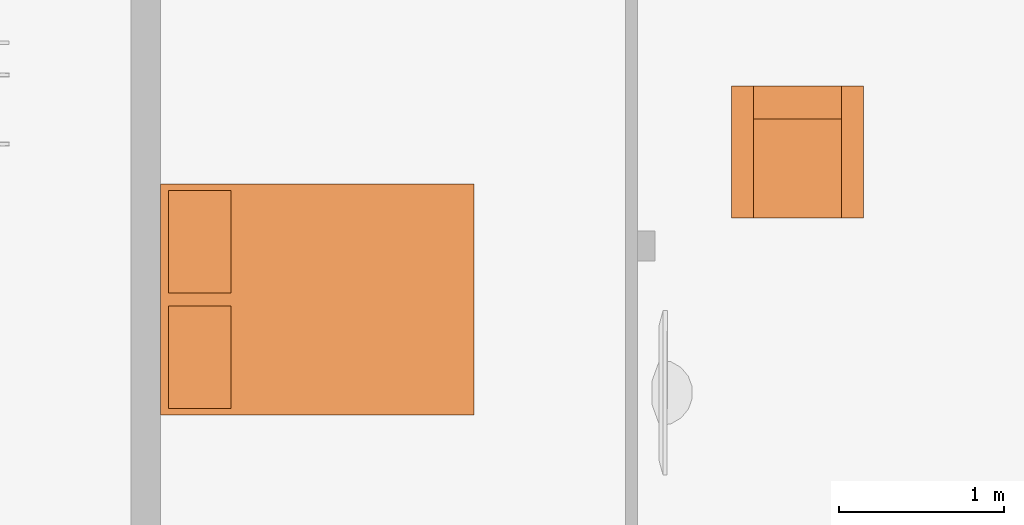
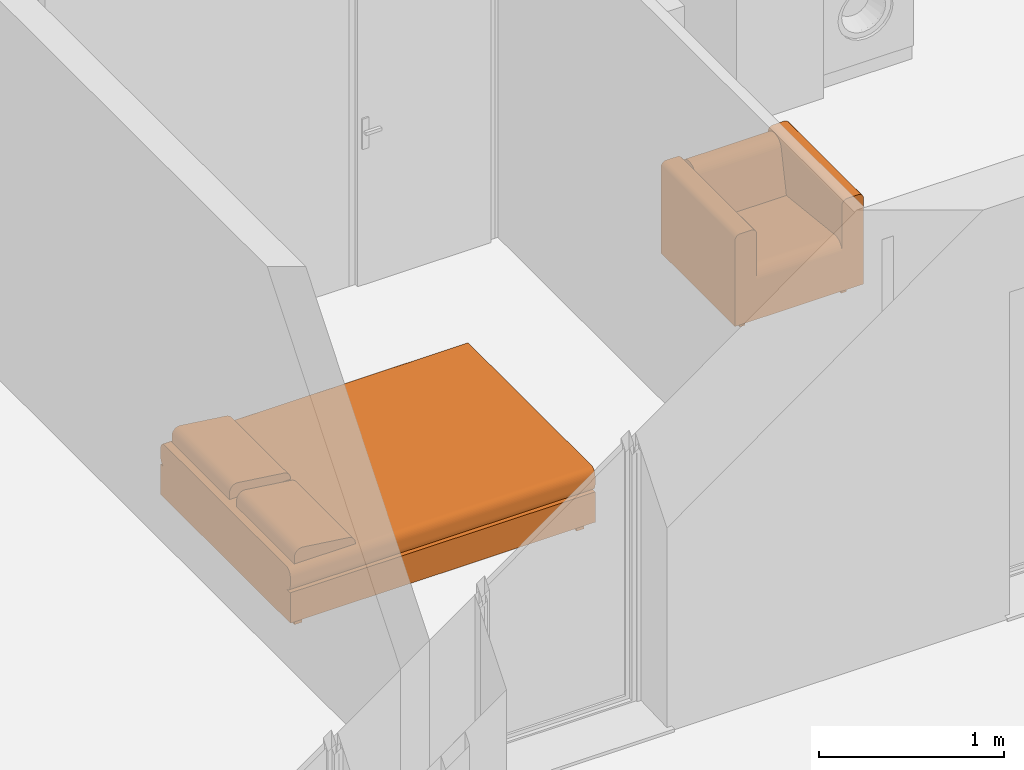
# One storey, part 138 of 164: 2 proxies.
"""IFC2X3 building model written with IfcOpenShell, lengths in millimetres."""

from ifc_helpers import new_model, entity, si_unit, converted_unit, derived_unit, money_unit, direction, frame, origin_with_axes, place, context, subcontext, project, spatial, open_shell, faceted_brep, surface_model, source, transform, mapped, type_object, element, save


model = new_model("IFC2X3")

# Units and contexts
model_context = context("Model", 3, precision=0.01, world=origin_with_axes(), true_north=direction((0.0, 1.0)))
body_context = subcontext(model_context, "Body", "Model", "MODEL_VIEW")
ifc_project = project(units=[si_unit("LENGTHUNIT", "METRE", prefix="MILLI"), si_unit("AREAUNIT", "SQUARE_METRE"), si_unit("VOLUMEUNIT", "CUBIC_METRE"), converted_unit("PLANEANGLEUNIT", "DEGREE", entity("IfcPlaneAngleMeasure", 0.0174532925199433), si_unit("PLANEANGLEUNIT", "RADIAN"), dimensions=[0, 0, 0, 0, 0, 0, 0]), money_unit("USD"), converted_unit("TIMEUNIT", "Year", entity("IfcTimeMeasure", 31557600.0), si_unit("TIMEUNIT", "SECOND"), dimensions=[0, 0, 1, 0, 0, 0, 0]), si_unit("MASSUNIT", "GRAM", prefix="KILO"), si_unit("THERMODYNAMICTEMPERATUREUNIT", "DEGREE_CELSIUS"), si_unit("LUMINOUSINTENSITYUNIT", "LUMEN"), si_unit("ENERGYUNIT", "JOULE", prefix="MEGA"), derived_unit("THERMALCONDUCTANCEUNIT", [(si_unit("POWERUNIT", "WATT"), 1), (si_unit("LENGTHUNIT", "METRE"), -1), (si_unit("THERMODYNAMICTEMPERATUREUNIT", "KELVIN"), -1)]), derived_unit("SPECIFICHEATCAPACITYUNIT", [(si_unit("ENERGYUNIT", "JOULE"), 1), (si_unit("MASSUNIT", "GRAM", prefix="KILO"), -1), (si_unit("THERMODYNAMICTEMPERATUREUNIT", "KELVIN"), -1)]), derived_unit("MASSDENSITYUNIT", [(si_unit("MASSUNIT", "GRAM", prefix="KILO"), 1), (si_unit("VOLUMEUNIT", "CUBIC_METRE"), -1)])], contexts=[model_context])

# Site, building, storey
site_placement = place(None, origin_with_axes())
site = spatial("IfcSite", under=ifc_project, at=site_placement, Name="Site", CompositionType="ELEMENT")
building_placement = place(site_placement, origin_with_axes())
building = spatial("IfcBuilding", under=site, at=building_placement, Name="Bâtiment", CompositionType="ELEMENT")
storey_placement = place(building_placement, frame((0.0, 0.0, 5750.0), z_axis=(0.0, 0.0, 1.0), x_axis=(1.0, 0.0, 0.0)))
storey = spatial("IfcBuildingStorey", under=building, at=storey_placement, Name="Etage1", CompositionType="ELEMENT", Elevation=5750.0)

# Proxies
building_element_proxy_type = type_object("IfcBuildingElementProxyType", PredefinedType="NOTDEFINED")
shared_shape_1 = source(origin_with_axes(), body_context, "Body", "Brep", [
    faceted_brep([(-333.3000000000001, 66.7, 0.0), (-333.3000000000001, 100.0, 0.0), (-300.0000000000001, 100.0, 0.0), (-300.0000000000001, 66.7, 0.0), (-333.3000000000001, 66.7, 66.69999999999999), (-333.3000000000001, 100.0, 66.69999999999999), (-300.0000000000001, 100.0, 66.69999999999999), (-300.0000000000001, 66.7, 66.69999999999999)], [[[0, 1, 2, 3]], [[0, 4, 5, 1]], [[1, 5, 6, 2]], [[2, 6, 7, 3]], [[3, 7, 4, 0]], [[7, 6, 5, 4]]]),
    faceted_brep([(-333.3000000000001, 700.0000000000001, 0.0), (-333.3000000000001, 733.3000000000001, 0.0), (-300.0000000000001, 733.3000000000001, 0.0), (-300.0000000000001, 700.0000000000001, 0.0), (-333.3000000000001, 700.0000000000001, 66.69999999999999), (-333.3000000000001, 733.3000000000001, 66.69999999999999), (-300.0000000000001, 733.3000000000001, 66.69999999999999), (-300.0000000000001, 700.0000000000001, 66.69999999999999)], [[[0, 1, 2, 3]], [[0, 4, 5, 1]], [[1, 5, 6, 2]], [[2, 6, 7, 3]], [[3, 7, 4, 0]], [[7, 6, 5, 4]]]),
    faceted_brep([(300.0000000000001, 66.7, 0.0), (300.0000000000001, 100.0, 0.0), (333.3000000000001, 100.0, 0.0), (333.3000000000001, 66.7, 0.0), (300.0000000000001, 66.7, 66.69999999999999), (300.0000000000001, 100.0, 66.69999999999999), (333.3000000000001, 100.0, 66.69999999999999), (333.3000000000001, 66.7, 66.69999999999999)], [[[0, 1, 2, 3]], [[0, 4, 5, 1]], [[1, 5, 6, 2]], [[2, 6, 7, 3]], [[3, 7, 4, 0]], [[7, 6, 5, 4]]]),
    faceted_brep([(300.0000000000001, 700.0000000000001, 0.0), (300.0000000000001, 733.3000000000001, 0.0), (333.3000000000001, 733.3000000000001, 0.0), (333.3000000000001, 700.0000000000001, 0.0), (300.0000000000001, 700.0000000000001, 66.69999999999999), (300.0000000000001, 733.3000000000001, 66.69999999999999), (333.3000000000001, 733.3000000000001, 66.69999999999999), (333.3000000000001, 700.0000000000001, 66.69999999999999)], [[[0, 1, 2, 3]], [[0, 4, 5, 1]], [[1, 5, 6, 2]], [[2, 6, 7, 3]], [[3, 7, 4, 0]], [[7, 6, 5, 4]]]),
    faceted_brep([(-266.7, 800.0, 66.69999999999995), (-266.7, 0.0, 66.69999999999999), (-400.033, 0.0, 66.69999999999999), (-400.033, 800.0, 66.69999999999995), (-266.7, 800.0, 67.19999999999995), (-266.7, 0.0, 67.19999999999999), (-266.7, 0.0, 633.37), (-266.7, 0.0, 636.2859999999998), (-267.713, 0.0, 642.029), (-269.707, 0.0, 647.5099999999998), (-272.623, 0.0, 652.5599999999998), (-276.372, 0.0, 657.0279999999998), (-280.84, 0.0, 660.7769999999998), (-285.89, 0.0, 663.6929999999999), (-291.371, 0.0, 665.6869999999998), (-297.114, 0.0, 666.6999999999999), (-300.03, 0.0, 666.6999999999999), (-366.703, 0.0, 666.6999999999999), (-369.619, 0.0, 666.6999999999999), (-375.363, 0.0, 665.6869999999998), (-380.843, 0.0, 663.6929999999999), (-385.894, 0.0, 660.7769999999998), (-390.361, 0.0, 657.0279999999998), (-394.11, 0.0, 652.5599999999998), (-397.026, 0.0, 647.5099999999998), (-399.021, 0.0, 642.029), (-400.033, 0.0, 636.2859999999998), (-400.033, 0.0, 633.37), (-400.033, 800.0, 633.37), (-400.033, 800.0, 636.2859999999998), (-399.021, 800.0, 642.029), (-397.026, 800.0, 647.5099999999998), (-394.11, 800.0, 652.5599999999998), (-390.361, 800.0, 657.0279999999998), (-385.894, 800.0, 660.7769999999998), (-380.843, 800.0, 663.6929999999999), (-375.363, 800.0, 665.6869999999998), (-369.619, 800.0, 666.6999999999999), (-366.703, 800.0, 666.6999999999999), (-300.03, 800.0, 666.6999999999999), (-297.114, 800.0, 666.6999999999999), (-291.371, 800.0, 665.6869999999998), (-285.89, 800.0, 663.6929999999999), (-280.84, 800.0, 660.7769999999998), (-276.372, 800.0, 657.0279999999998), (-272.623, 800.0, 652.5599999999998), (-269.707, 800.0, 647.5099999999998), (-267.713, 800.0, 642.029), (-266.7, 800.0, 636.2859999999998), (-266.7, 800.0, 633.37)], [[[0, 1, 2, 3]], [[4, 5, 1, 0]], [[1, 5, 6, 7, 8, 9, 10, 11, 12, 13, 14, 15, 16, 17, 18, 19, 20, 21, 22, 23, 24, 25, 26, 27, 2]], [[3, 2, 27, 28]], [[0, 3, 28, 29, 30, 31, 32, 33, 34, 35, 36, 37, 38, 39, 40, 41, 42, 43, 44, 45, 46, 47, 48, 49, 4]], [[49, 6, 5, 4]], [[48, 7, 6, 49]], [[47, 8, 7, 48]], [[46, 9, 8, 47]], [[45, 10, 9, 46]], [[44, 11, 10, 45]], [[43, 12, 11, 44]], [[42, 13, 12, 43]], [[41, 14, 13, 42]], [[40, 15, 14, 41]], [[39, 16, 15, 40]], [[38, 17, 16, 39]], [[37, 18, 17, 38]], [[36, 19, 18, 37]], [[35, 20, 19, 36]], [[34, 21, 20, 35]], [[33, 22, 21, 34]], [[32, 23, 22, 33]], [[31, 24, 23, 32]], [[30, 25, 24, 31]], [[29, 26, 25, 30]], [[28, 27, 26, 29]]]),
    faceted_brep([(400.0, 800.0, 66.69999999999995), (400.0, 0.0, 66.69999999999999), (266.667, 0.0, 66.69999999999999), (266.667, 800.0, 66.69999999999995), (400.0, 800.0, 67.19999999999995), (400.0, 0.0, 67.19999999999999), (400.0, 0.0, 633.37), (400.0, 0.0, 636.2859999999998), (398.987, 0.0, 642.029), (396.9930000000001, 0.0, 647.5099999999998), (394.077, 0.0, 652.5599999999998), (390.328, 0.0, 657.0279999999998), (385.86, 0.0, 660.7769999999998), (380.8100000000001, 0.0, 663.6929999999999), (375.329, 0.0, 665.6869999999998), (369.586, 0.0, 666.6999999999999), (366.67, 0.0, 666.6999999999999), (299.997, 0.0, 666.6999999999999), (297.081, 0.0, 666.6999999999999), (291.337, 0.0, 665.6869999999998), (285.857, 0.0, 663.6929999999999), (280.806, 0.0, 660.7769999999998), (276.339, 0.0, 657.0279999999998), (272.59, 0.0, 652.5599999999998), (269.674, 0.0, 647.5099999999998), (267.679, 0.0, 642.029), (266.667, 0.0, 636.2859999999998), (266.667, 0.0, 633.37), (266.667, 800.0, 633.37), (266.667, 800.0, 636.2859999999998), (267.679, 800.0, 642.029), (269.674, 800.0, 647.5099999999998), (272.59, 800.0, 652.5599999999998), (276.339, 800.0, 657.0279999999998), (280.806, 800.0, 660.7769999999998), (285.857, 800.0, 663.6929999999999), (291.337, 800.0, 665.6869999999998), (297.081, 800.0, 666.6999999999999), (299.997, 800.0, 666.6999999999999), (366.67, 800.0, 666.6999999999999), (369.586, 800.0, 666.6999999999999), (375.329, 800.0, 665.6869999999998), (380.8100000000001, 800.0, 663.6929999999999), (385.86, 800.0, 660.7769999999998), (390.328, 800.0, 657.0279999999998), (394.077, 800.0, 652.5599999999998), (396.9930000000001, 800.0, 647.5099999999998), (398.987, 800.0, 642.029), (400.0, 800.0, 636.2859999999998), (400.0, 800.0, 633.37)], [[[0, 1, 2, 3]], [[4, 5, 1, 0]], [[1, 5, 6, 7, 8, 9, 10, 11, 12, 13, 14, 15, 16, 17, 18, 19, 20, 21, 22, 23, 24, 25, 26, 27, 2]], [[3, 2, 27, 28]], [[0, 3, 28, 29, 30, 31, 32, 33, 34, 35, 36, 37, 38, 39, 40, 41, 42, 43, 44, 45, 46, 47, 48, 49, 4]], [[49, 6, 5, 4]], [[48, 7, 6, 49]], [[47, 8, 7, 48]], [[46, 9, 8, 47]], [[45, 10, 9, 46]], [[44, 11, 10, 45]], [[43, 12, 11, 44]], [[42, 13, 12, 43]], [[41, 14, 13, 42]], [[40, 15, 14, 41]], [[39, 16, 15, 40]], [[38, 17, 16, 39]], [[37, 18, 17, 38]], [[36, 19, 18, 37]], [[35, 20, 19, 36]], [[34, 21, 20, 35]], [[33, 22, 21, 34]], [[32, 23, 22, 33]], [[31, 24, 23, 32]], [[30, 25, 24, 31]], [[29, 26, 25, 30]], [[28, 27, 26, 29]]]),
    faceted_brep([(266.6667, 0.0, 66.69999999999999), (-266.6333, 0.0, 66.69999999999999), (-266.6333, 800.0, 66.69999999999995), (266.6667, 800.0, 66.69999999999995), (266.6667, 0.0, 67.2), (-266.6333, 0.0, 67.2), (-266.6333, 0.0, 325.5449999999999), (-266.6333, -0.2359999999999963, 327.1109999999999), (-266.6333, 1.052000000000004, 338.7049999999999), (-266.6333, 4.334000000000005, 349.8989999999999), (-266.6333, 9.510000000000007, 360.3539999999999), (-266.6333, 16.42300000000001, 369.7509999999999), (-266.6333, 24.86200000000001, 377.8049999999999), (-266.6333, 34.57200000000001, 384.271), (-266.6333, 45.25800000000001, 388.9519999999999), (-266.6333, 56.59300000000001, 391.707), (-266.6333, 68.23500000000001, 392.4519999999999), (-266.6333, 74.03200000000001, 391.808), (-266.6333, 600.0000000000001, 333.3669999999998), (-266.6333, 600.0980000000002, 333.8569999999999), (-266.6333, 655.9480000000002, 613.1049999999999), (-266.6333, 656.6790000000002, 617.351), (-266.6333, 660.6690000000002, 628.314), (-266.6333, 666.5020000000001, 638.4159999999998), (-266.6333, 674.0000000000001, 647.3529999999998), (-266.6333, 682.937, 654.8509999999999), (-266.6333, 693.0390000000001, 660.6839999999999), (-266.6333, 704.0020000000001, 664.6739999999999), (-266.6333, 715.4900000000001, 666.6999999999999), (-266.6333, 721.3230000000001, 666.6999999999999), (-266.6333, 733.33, 666.6999999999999), (-266.6333, 739.163, 666.6999999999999), (-266.6333, 750.6510000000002, 664.6739999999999), (-266.6333, 761.614, 660.6839999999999), (-266.6333, 771.716, 654.8509999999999), (-266.6333, 780.653, 647.3529999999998), (-266.6333, 788.1510000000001, 638.4159999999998), (-266.6333, 793.984, 628.314), (-266.6333, 797.974, 617.351), (-266.6333, 800.0, 605.8629999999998), (-266.6333, 800.0, 600.0299999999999), (266.6667, 800.0, 600.0299999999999), (266.6667, 800.0, 605.8629999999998), (266.6667, 797.974, 617.351), (266.6667, 793.984, 628.314), (266.6667, 788.1510000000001, 638.4159999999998), (266.6667, 780.653, 647.3529999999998), (266.6667, 771.716, 654.8509999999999), (266.6667, 761.614, 660.6839999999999), (266.6667, 750.6510000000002, 664.6739999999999), (266.6667, 739.163, 666.6999999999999), (266.6667, 733.33, 666.6999999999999), (266.6667, 721.3230000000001, 666.6999999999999), (266.6667, 715.4900000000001, 666.6999999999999), (266.6667, 704.0020000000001, 664.6739999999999), (266.6667, 693.0390000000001, 660.6839999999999), (266.6667, 682.937, 654.8509999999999), (266.6667, 674.0000000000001, 647.3529999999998), (266.6667, 666.5020000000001, 638.4159999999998), (266.6667, 660.6690000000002, 628.314), (266.6667, 656.6790000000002, 617.351), (266.6667, 655.9480000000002, 613.1049999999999), (266.6667, 600.0980000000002, 333.8569999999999), (266.6667, 600.0000000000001, 333.3669999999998), (266.6667, 74.03200000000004, 391.808), (266.6667, 68.23500000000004, 392.4519999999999), (266.6667, 56.59300000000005, 391.707), (266.6667, 45.25800000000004, 388.9519999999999), (266.6667, 34.57200000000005, 384.271), (266.6667, 24.86200000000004, 377.8049999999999), (266.6667, 16.42300000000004, 369.7509999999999), (266.6667, 9.510000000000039, 360.3539999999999), (266.6667, 4.334000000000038, 349.8989999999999), (266.6667, 1.052000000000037, 338.7049999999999), (266.6667, -0.2359999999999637, 327.1109999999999), (266.6667, 0.0, 325.5449999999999)], [[[0, 1, 2, 3]], [[4, 5, 1, 0]], [[1, 5, 6, 7, 8, 9, 10, 11, 12, 13, 14, 15, 16, 17, 18, 19, 20, 21, 22, 23, 24, 25, 26, 27, 28, 29, 30, 31, 32, 33, 34, 35, 36, 37, 38, 39, 40, 2]], [[3, 2, 40, 41]], [[0, 3, 41, 42, 43, 44, 45, 46, 47, 48, 49, 50, 51, 52, 53, 54, 55, 56, 57, 58, 59, 60, 61, 62, 63, 64, 65, 66, 67, 68, 69, 70, 71, 72, 73, 74, 75, 4]], [[75, 6, 5, 4]], [[74, 7, 6, 75]], [[73, 8, 7, 74]], [[72, 9, 8, 73]], [[71, 10, 9, 72]], [[70, 11, 10, 71]], [[69, 12, 11, 70]], [[68, 13, 12, 69]], [[67, 14, 13, 68]], [[66, 15, 14, 67]], [[65, 16, 15, 66]], [[64, 17, 16, 65]], [[63, 18, 17, 64]], [[62, 19, 18, 63]], [[61, 20, 19, 62]], [[60, 21, 20, 61]], [[59, 22, 21, 60]], [[58, 23, 22, 59]], [[57, 24, 23, 58]], [[56, 25, 24, 57]], [[55, 26, 25, 56]], [[54, 27, 26, 55]], [[53, 28, 27, 54]], [[52, 29, 28, 53]], [[51, 30, 29, 52]], [[50, 31, 30, 51]], [[49, 32, 31, 50]], [[48, 33, 32, 49]], [[47, 34, 33, 48]], [[46, 35, 34, 47]], [[45, 36, 35, 46]], [[44, 37, 36, 45]], [[43, 38, 37, 44]], [[42, 39, 38, 43]], [[41, 40, 39, 42]]]),
])
proxy_1_placement = place(storey_placement, frame((2228173.380267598, -654780.4209797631, 0.0), z_axis=(0.0, 0.0, 1.0), x_axis=(1.0, 0.0, 0.0)))
element("IfcBuildingElementProxy", 1, at=proxy_1_placement, inside=storey, type_object=building_element_proxy_type, Name="Obj.-034", context=body_context, shape_type="MappedRepresentation", body=[
    mapped(shared_shape_1, transform((0.0, 0.0, 0.0))),
])
shared_shape_2 = source(origin_with_axes(), body_context, "Body", "SurfaceModel", [
    faceted_brep([(-622.2222222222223, -95.0, 0.0), (-661.1111111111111, -95.0, 0.0), (-661.1111111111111, -47.5, 0.0), (-622.2222222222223, -47.5, 0.0), (-622.2222222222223, -95.0, 50.0), (-661.1111111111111, -95.0, 50.0), (-661.1111111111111, -47.5, 50.0), (-622.2222222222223, -47.5, 50.0)], [[[0, 1, 2, 3]], [[1, 0, 4, 5]], [[2, 1, 5, 6]], [[3, 2, 6, 7]], [[0, 3, 7, 4]], [[5, 4, 7, 6]]]),
    faceted_brep([(-622.2222222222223, -1852.5, 0.0), (-661.1111111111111, -1852.5, 0.0), (-661.1111111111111, -1805.0, 0.0), (-622.2222222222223, -1805.0, 0.0), (-622.2222222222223, -1852.5, 50.0), (-661.1111111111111, -1852.5, 50.0), (-661.1111111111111, -1805.0, 50.0), (-622.2222222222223, -1805.0, 50.0)], [[[0, 1, 2, 3]], [[1, 0, 4, 5]], [[2, 1, 5, 6]], [[3, 2, 6, 7]], [[0, 3, 7, 4]], [[5, 4, 7, 6]]]),
    faceted_brep([(661.111111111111, -1852.5, 0.0), (622.2222222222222, -1852.5, 0.0), (622.2222222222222, -1805.0, 0.0), (661.111111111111, -1805.0, 0.0), (661.111111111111, -1852.5, 50.0), (622.2222222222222, -1852.5, 50.0), (622.2222222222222, -1805.0, 50.0), (661.111111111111, -1805.0, 50.0)], [[[0, 1, 2, 3]], [[1, 0, 4, 5]], [[2, 1, 5, 6]], [[3, 2, 6, 7]], [[0, 3, 7, 4]], [[5, 4, 7, 6]]]),
    faceted_brep([(661.111111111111, -94.99999999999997, 0.0), (622.2222222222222, -94.99999999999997, 0.0), (622.2222222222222, -47.49999999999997, 0.0), (661.111111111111, -47.49999999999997, 0.0), (661.111111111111, -94.99999999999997, 50.0), (622.2222222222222, -94.99999999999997, 50.0), (622.2222222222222, -47.49999999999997, 50.0), (661.111111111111, -47.49999999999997, 50.0)], [[[0, 1, 2, 3]], [[1, 0, 4, 5]], [[2, 1, 5, 6]], [[3, 2, 6, 7]], [[0, 3, 7, 4]], [[5, 4, 7, 6]]]),
    faceted_brep([(-700.0, 0.0, 50.0), (700.0, 0.0, 50.0), (700.0, -1900.0, 50.00000000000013), (-700.0, -1900.0, 50.00000000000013), (-700.0, 0.0, 250.0), (700.0, 0.0, 250.0), (700.0, -1900.0, 250.0000000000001), (-700.0, -1900.0, 250.0000000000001)], [[[0, 1, 2, 3]], [[0, 4, 5, 1]], [[1, 5, 6, 2]], [[3, 2, 6, 7]], [[4, 0, 3, 7]], [[5, 4, 7, 6]]]),
    surface_model("IfcShellBasedSurfaceModel", [(661.1111111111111, 0.0, 250.0), (667.8640957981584, 0.0, 250.7596123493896), (667.8640957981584, -1900.0, 250.7596123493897), (661.1111111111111, -1900.0, 250.0000000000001), (-661.1111111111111, 0.0, 250.0), (-667.8640957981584, 0.0, 250.7596123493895), (-674.4118944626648, 0.0, 253.0153689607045), (-680.5555555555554, 0.0, 256.698729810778), (-686.1084070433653, 0.0, 261.6977778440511), (-690.9017283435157, 0.0, 267.860619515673), (-694.7898768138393, 0.0, 275.0), (-697.654713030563, 0.0, 282.8989928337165), (-699.4091903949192, 0.0, 291.3175911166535), (-700.0, 0.0, 300.0000000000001), (-700.0000000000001, 0.0, 350.0), (-699.4091903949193, 0.0, 358.6824088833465), (-697.654713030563, 0.0, 367.1010071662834), (-694.7898768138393, 0.0, 375.0), (-690.9017283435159, 0.0, 382.139380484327), (-686.1084070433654, 0.0, 388.3022221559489), (-680.5555555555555, 0.0, 393.301270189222), (-674.4118944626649, 0.0, 396.9846310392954), (-667.8640957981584, 0.0, 399.2403876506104), (-661.1111111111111, 0.0, 400.0), (661.111111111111, 0.0, 400.0000000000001), (667.8640957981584, 0.0, 399.2403876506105), (674.4118944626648, 0.0, 396.9846310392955), (680.5555555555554, 0.0, 393.301270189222), (686.1084070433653, 0.0, 388.3022221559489), (690.9017283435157, 0.0, 382.139380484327), (694.7898768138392, 0.0, 375.0000000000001), (697.654713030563, 0.0, 367.1010071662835), (699.4091903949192, 0.0, 358.6824088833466), (700.0, 0.0, 350.0000000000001), (700.0, 0.0, 300.0000000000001), (699.4091903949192, 0.0, 291.3175911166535), (697.654713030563, 0.0, 282.8989928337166), (694.7898768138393, 0.0, 275.0), (690.9017283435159, 0.0, 267.8606195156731), (686.1084070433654, 0.0, 261.6977778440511), (680.5555555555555, 0.0, 256.698729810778), (674.4118944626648, 0.0, 253.0153689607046), (674.4118944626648, -1900.0, 253.0153689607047), (-661.1111111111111, -1900.0, 250.0000000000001), (680.5555555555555, -1900.0, 256.6987298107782), (686.1084070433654, -1900.0, 261.6977778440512), (690.9017283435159, -1900.0, 267.8606195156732), (694.7898768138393, -1900.0, 275.0000000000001), (697.654713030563, -1900.0, 282.8989928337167), (699.4091903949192, -1900.0, 291.3175911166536), (700.0, -1900.0, 300.0000000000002), (700.0, -1900.0, 350.0000000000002), (699.4091903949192, -1900.0, 358.6824088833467), (697.654713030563, -1900.0, 367.1010071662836), (694.7898768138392, -1900.0, 375.0000000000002), (690.9017283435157, -1900.0, 382.1393804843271), (686.1084070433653, -1900.0, 388.302222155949), (680.5555555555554, -1900.0, 393.3012701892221), (674.4118944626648, -1900.0, 396.9846310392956), (667.8640957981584, -1900.0, 399.2403876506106), (661.111111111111, -1900.0, 400.0000000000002), (-661.1111111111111, -1900.0, 400.0000000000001), (-667.8640957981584, -1900.0, 399.2403876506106), (-674.4118944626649, -1900.0, 396.9846310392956), (-680.5555555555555, -1900.0, 393.3012701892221), (-686.1084070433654, -1900.0, 388.302222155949), (-690.9017283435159, -1900.0, 382.1393804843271), (-694.7898768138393, -1900.0, 375.0000000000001), (-697.654713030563, -1900.0, 367.1010071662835), (-699.4091903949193, -1900.0, 358.6824088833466), (-700.0000000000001, -1900.0, 350.0000000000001), (-700.0, -1900.0, 300.0000000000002), (-699.4091903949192, -1900.0, 291.3175911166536), (-697.654713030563, -1900.0, 282.8989928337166), (-694.7898768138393, -1900.0, 275.0000000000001), (-690.9017283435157, -1900.0, 267.8606195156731), (-686.1084070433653, -1900.0, 261.6977778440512), (-680.5555555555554, -1900.0, 256.6987298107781), (-674.4118944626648, -1900.0, 253.0153689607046), (-667.8640957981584, -1900.0, 250.7596123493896)], [open_shell([[[0, 1, 2, 3]], [[4, 5, 6, 7, 8, 9, 10, 11, 12, 13, 14, 15, 16, 17, 18, 19, 20, 21, 22, 23, 24, 25, 26, 27, 28, 29, 30, 31, 32, 33, 34, 35, 36, 37, 38, 39, 40, 41, 1, 0]], [[1, 41, 42, 2]], [[43, 3, 2, 42, 44, 45, 46, 47, 48, 49, 50, 51, 52, 53, 54, 55, 56, 57, 58, 59, 60, 61, 62, 63, 64, 65, 66, 67, 68, 69, 70, 71, 72, 73, 74, 75, 76, 77, 78, 79]], [[5, 4, 43, 79]], [[6, 5, 79, 78]], [[7, 6, 78, 77]], [[8, 7, 77, 76]], [[9, 8, 76, 75]], [[10, 9, 75, 74]], [[11, 10, 74, 73]], [[12, 11, 73, 72]], [[13, 12, 72, 71]], [[14, 13, 71, 70]], [[15, 14, 70, 69]], [[16, 15, 69, 68]], [[17, 16, 68, 67]], [[18, 17, 67, 66]], [[19, 18, 66, 65]], [[20, 19, 65, 64]], [[21, 20, 64, 63]], [[22, 21, 63, 62]], [[23, 22, 62, 61]], [[24, 23, 61, 60]], [[25, 24, 60, 59]], [[26, 25, 59, 58]], [[27, 26, 58, 57]], [[28, 27, 57, 56]], [[29, 28, 56, 55]], [[30, 29, 55, 54]], [[31, 30, 54, 53]], [[32, 31, 53, 52]], [[33, 32, 52, 51]], [[34, 33, 51, 50]], [[35, 34, 50, 49]], [[36, 35, 49, 48]], [[37, 36, 48, 47]], [[38, 37, 47, 46]], [[39, 38, 46, 45]], [[40, 39, 45, 44]], [[41, 40, 44, 42]]])]),
    faceted_brep([(38.88888888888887, -47.49999999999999, 400.0), (38.88888888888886, -47.49999999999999, 443.4), (661.1111111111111, -47.50000000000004, 443.4000000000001), (661.1111111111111, -47.50000000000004, 400.0000000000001), (38.88888888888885, -427.5, 400.0), (38.88888888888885, -427.6960812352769, 408.695442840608), (38.88888888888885, -426.4675711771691, 417.2966661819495), (38.88888888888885, -423.8511300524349, 425.5469991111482), (38.88888888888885, -419.9248356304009, 433.2002417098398), (38.88888888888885, -414.8058532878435, 440.0280119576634), (38.88888888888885, -408.6469396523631, 445.826560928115), (38.88888888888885, -401.6318841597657, 450.4228529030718), (38.88888888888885, -393.9700245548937, 453.6797289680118), (38.88888888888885, -385.89, 455.5), (38.88888888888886, -100.89, 493.0000000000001), (38.88888888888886, -92.85488048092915, 493.3370808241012), (38.88888888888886, -84.88093291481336, 492.2422169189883), (38.88888888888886, -77.19681007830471, 489.7468034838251), (38.88888888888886, -70.02285403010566, 485.922396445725), (38.88888888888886, -63.56477780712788, 480.878660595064), (38.88888888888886, -58.00776660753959, 474.7602249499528), (38.88888888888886, -53.51116760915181, 467.7425355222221), (38.88888888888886, -50.20392069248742, 460.0268244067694), (38.88888888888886, -48.18086109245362, 451.834339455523), (661.1111111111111, -48.18086109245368, 451.8343394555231), (661.1111111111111, -50.20392069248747, 460.0268244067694), (661.1111111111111, -53.51116760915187, 467.7425355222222), (661.1111111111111, -58.00776660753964, 474.7602249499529), (661.1111111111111, -63.56477780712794, 480.878660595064), (661.1111111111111, -70.02285403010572, 485.922396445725), (661.1111111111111, -77.19681007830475, 489.7468034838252), (661.1111111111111, -84.88093291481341, 492.2422169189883), (661.1111111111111, -92.85488048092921, 493.3370808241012), (661.1111111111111, -100.8900000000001, 493.0000000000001), (661.1111111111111, -385.89, 455.5000000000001), (661.1111111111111, -393.9700245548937, 453.6797289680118), (661.1111111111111, -401.6318841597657, 450.4228529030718), (661.1111111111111, -408.6469396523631, 445.826560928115), (661.1111111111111, -414.8058532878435, 440.0280119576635), (661.1111111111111, -419.924835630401, 433.2002417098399), (661.1111111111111, -423.8511300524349, 425.5469991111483), (661.1111111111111, -426.4675711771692, 417.2966661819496), (661.1111111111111, -427.6960812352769, 408.6954428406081), (661.1111111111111, -427.5, 400.0000000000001)], [[[0, 1, 2, 3]], [[0, 4, 5, 6, 7, 8, 9, 10, 11, 12, 13, 14, 15, 16, 17, 18, 19, 20, 21, 22, 23, 1]], [[1, 23, 24, 2]], [[3, 2, 24, 25, 26, 27, 28, 29, 30, 31, 32, 33, 34, 35, 36, 37, 38, 39, 40, 41, 42, 43]], [[4, 0, 3, 43]], [[5, 4, 43, 42]], [[6, 5, 42, 41]], [[7, 6, 41, 40]], [[8, 7, 40, 39]], [[9, 8, 39, 38]], [[10, 9, 38, 37]], [[11, 10, 37, 36]], [[12, 11, 36, 35]], [[13, 12, 35, 34]], [[14, 13, 34, 33]], [[15, 14, 33, 32]], [[16, 15, 32, 31]], [[17, 16, 31, 30]], [[18, 17, 30, 29]], [[19, 18, 29, 28]], [[20, 19, 28, 27]], [[21, 20, 27, 26]], [[22, 21, 26, 25]], [[23, 22, 25, 24]]]),
    faceted_brep([(-661.1111111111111, -47.49999999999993, 399.9999999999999), (-661.1111111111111, -47.49999999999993, 443.4), (-38.88888888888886, -47.49999999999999, 443.4), (-38.88888888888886, -47.49999999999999, 400.0), (-661.1111111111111, -427.4999999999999, 399.9999999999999), (-661.1111111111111, -427.6960812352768, 408.6954428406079), (-661.1111111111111, -426.4675711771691, 417.2966661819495), (-661.1111111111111, -423.8511300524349, 425.5469991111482), (-661.1111111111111, -419.9248356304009, 433.2002417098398), (-661.1111111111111, -414.8058532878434, 440.0280119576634), (-661.1111111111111, -408.646939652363, 445.8265609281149), (-661.1111111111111, -401.6318841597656, 450.4228529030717), (-661.1111111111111, -393.9700245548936, 453.6797289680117), (-661.1111111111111, -385.8899999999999, 455.4999999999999), (-661.1111111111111, -100.89, 493.0), (-661.1111111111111, -92.8548804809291, 493.3370808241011), (-661.1111111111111, -84.8809329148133, 492.2422169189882), (-661.1111111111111, -77.19681007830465, 489.7468034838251), (-661.1111111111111, -70.0228540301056, 485.9223964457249), (-661.1111111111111, -63.56477780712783, 480.8786605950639), (-661.1111111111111, -58.00776660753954, 474.7602249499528), (-661.1111111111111, -53.51116760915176, 467.7425355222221), (-661.1111111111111, -50.20392069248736, 460.0268244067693), (-661.1111111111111, -48.18086109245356, 451.834339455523), (-38.88888888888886, -48.18086109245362, 451.834339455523), (-38.88888888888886, -50.20392069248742, 460.0268244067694), (-38.88888888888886, -53.51116760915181, 467.7425355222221), (-38.88888888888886, -58.00776660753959, 474.7602249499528), (-38.88888888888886, -63.56477780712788, 480.878660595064), (-38.88888888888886, -70.02285403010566, 485.922396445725), (-38.88888888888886, -77.19681007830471, 489.7468034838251), (-38.88888888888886, -84.88093291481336, 492.2422169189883), (-38.88888888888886, -92.85488048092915, 493.3370808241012), (-38.88888888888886, -100.89, 493.0000000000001), (-38.88888888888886, -385.8899999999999, 455.5), (-38.88888888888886, -393.9700245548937, 453.6797289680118), (-38.88888888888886, -401.6318841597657, 450.4228529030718), (-38.88888888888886, -408.6469396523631, 445.826560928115), (-38.88888888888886, -414.8058532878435, 440.0280119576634), (-38.88888888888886, -419.9248356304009, 433.2002417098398), (-38.88888888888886, -423.8511300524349, 425.5469991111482), (-38.88888888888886, -426.4675711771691, 417.2966661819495), (-38.88888888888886, -427.6960812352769, 408.695442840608), (-38.88888888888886, -427.4999999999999, 400.0)], [[[0, 1, 2, 3]], [[0, 4, 5, 6, 7, 8, 9, 10, 11, 12, 13, 14, 15, 16, 17, 18, 19, 20, 21, 22, 23, 1]], [[1, 23, 24, 2]], [[3, 2, 24, 25, 26, 27, 28, 29, 30, 31, 32, 33, 34, 35, 36, 37, 38, 39, 40, 41, 42, 43]], [[4, 0, 3, 43]], [[5, 4, 43, 42]], [[6, 5, 42, 41]], [[7, 6, 41, 40]], [[8, 7, 40, 39]], [[9, 8, 39, 38]], [[10, 9, 38, 37]], [[11, 10, 37, 36]], [[12, 11, 36, 35]], [[13, 12, 35, 34]], [[14, 13, 34, 33]], [[15, 14, 33, 32]], [[16, 15, 32, 31]], [[17, 16, 31, 30]], [[18, 17, 30, 29]], [[19, 18, 29, 28]], [[20, 19, 28, 27]], [[21, 20, 27, 26]], [[22, 21, 26, 25]], [[23, 22, 25, 24]]]),
])
proxy_2_placement = place(storey_placement, frame((2224312.218860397, -655276.6156084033, 0.0), z_axis=(0.0, 0.0, 1.0), x_axis=(2.201927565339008e-07, 0.9999999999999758, 0.0)))
element("IfcBuildingElementProxy", 2, at=proxy_2_placement, inside=storey, type_object=building_element_proxy_type, Name="Obj.-003", context=body_context, shape_type="MappedRepresentation", body=[
    mapped(shared_shape_2, transform((0.0, 0.0, 0.0))),
])

save(model, "model.ifc")
